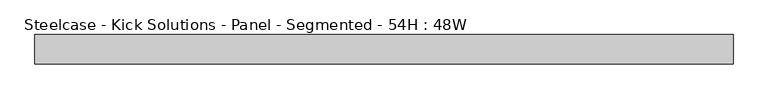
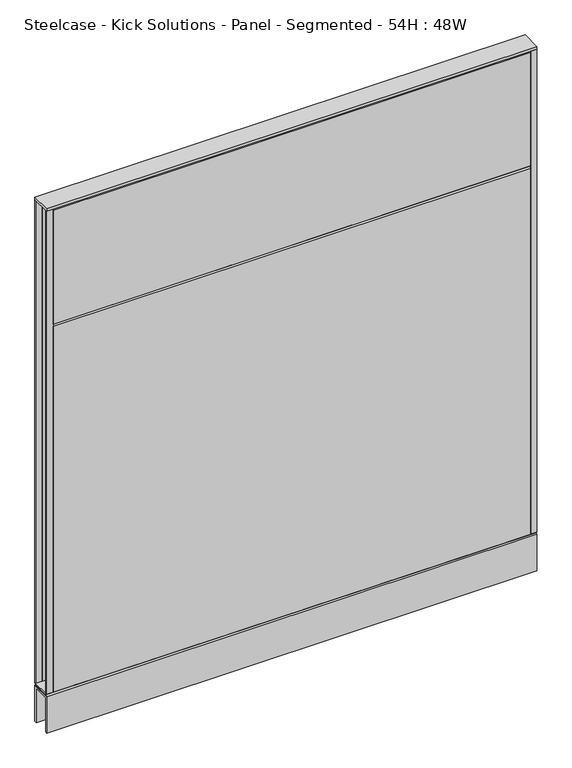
"""IFC4 building model written with IfcOpenShell, lengths in millimetres: furniture geometry, Steelcase - Kick Solutions - Panel - Segmented - 54H : 48W."""

from ifc_helpers import new_model, si_unit, frame, origin, place, context, project, spatial, polyline, outline, extrude, source, transform, mapped, element, save


def steelcase_kick_solutions_panel_segmented_54h_48w_2d25b613(model_context):
    return source(origin(), model_context, "Body", "SweptSolid", [
        extrude(outline(polyline([(1.5e-06, 101.600003), (-3.175, 101.600003), (-3.175, 1371.6), (1.5e-06, 1368.5188448), (1.5e-06, 101.600003)])), frame((15.8749996, 0.0, 0.0), z_axis=(1.0, 0.0, 0.0), x_axis=(0.0, 1.0, 0.0)), (0.0, 0.0, 1.0), 1187.4500008),
        extrude(outline(polyline([(-50.8000015, 1069.8811552), (-50.8000015, 1368.5188448), (-47.625, 1371.6), (-47.625, 1066.8), (-50.8000015, 1069.8811552)])), frame((15.8749996, 0.0, 0.0), z_axis=(1.0, 0.0, 0.0), x_axis=(0.0, 1.0, 0.0)), (0.0, 0.0, 1.0), 1187.4500008),
        extrude(outline(polyline([(-50.8000015, 101.600003), (-50.8000015, 1063.7188448), (-47.625, 1066.8), (-47.625, 101.600003), (-50.8000015, 101.600003)])), frame((15.8749996, 0.0, 0.0), z_axis=(1.0, 0.0, 0.0), x_axis=(0.0, 1.0, 0.0)), (0.0, 0.0, 1.0), 1187.4500008),
        extrude(outline(polyline([(1219.2, -3.1750015), (1203.3250004, -3.1750015), (1203.3250004, 0.0), (1219.2, 0.0), (1219.2, -3.1750015)])), frame((0.0, 0.0, 101.7169049), z_axis=(0.0, 0.0, 1.0), x_axis=(1.0, 0.0, 0.0)), (0.0, 0.0, 1.0), 1269.999997),
        extrude(outline(polyline([(15.8749996, -50.8000015), (0.0, -50.8000015), (0.0, -47.625), (15.8749996, -47.625), (15.8749996, -50.8000015)])), frame((0.0, 0.0, 101.7169049), z_axis=(0.0, 0.0, 1.0), x_axis=(1.0, 0.0, 0.0)), (0.0, 0.0, 1.0), 1269.999997),
        extrude(outline(polyline([(-50.7995075, 101.7169049), (-0.000494, 101.7169049), (-3.0583512, 98.5421458), (-47.7416503, 98.5421458), (-50.7995075, 101.7169049)])), frame((0.0, 0.0, 0.0), z_axis=(1.0, 0.0, 0.0), x_axis=(0.0, 1.0, 0.0)), (0.0, 0.0, 1.0), 1219.2),
        extrude(outline(polyline([(1219.2, 0.0), (1219.2, -50.8000015), (0.0, -50.8000015), (0.0, 0.0), (1219.2, 0.0)])), frame((0.0, 0.0, 1371.7169018), z_axis=(0.0, 0.0, 1.0), x_axis=(1.0, 0.0, 0.0)), (0.0, 0.0, 1.0), 6.35),
        extrude(outline(polyline([(15.8749996, -3.1750015), (0.0, -3.1750015), (0.0, 0.0), (15.8749996, 0.0), (15.8749996, -3.1750015)])), frame((0.0, 0.0, 101.7169049), z_axis=(0.0, 0.0, 1.0), x_axis=(1.0, 0.0, 0.0)), (0.0, 0.0, 1.0), 1269.999997),
        extrude(outline(polyline([(1219.2, -50.8000015), (1203.3250004, -50.8000015), (1203.3250004, -47.625), (1219.2, -47.625), (1219.2, -50.8000015)])), frame((0.0, 0.0, 101.7169049), z_axis=(0.0, 0.0, 1.0), x_axis=(1.0, 0.0, 0.0)), (0.0, 0.0, 1.0), 1269.999997),
        extrude(outline(polyline([(-50.8000015, 95.3668927), (-47.6247484, 98.5421458), (-3.1752531, 98.5421458), (0.0, 95.3668927), (-50.8000015, 95.3668927)])), frame((0.0, 0.0, 0.0), z_axis=(1.0, 0.0, 0.0), x_axis=(0.0, 1.0, 0.0)), (0.0, 0.0, 1.0), 1219.2),
        extrude(outline(polyline([(0.0, 0.0), (-5.08, 0.0), (-5.08, 90.2869018), (-45.7200015, 90.2869018), (-45.7200015, 0.0), (-50.8000015, 0.0), (-50.8000015, 95.3669018), (0.0, 95.3669018), (0.0, 0.0)])), frame((0.0, 0.0, 0.0), z_axis=(1.0, 0.0, 0.0), x_axis=(0.0, 1.0, 0.0)), (0.0, 0.0, 1.0), 1219.2),
    ])


if __name__ == "__main__":
    model = new_model("IFC4")
    model_context = context("Model", 3, world=origin())
    ifc_project = project(units=[si_unit("LENGTHUNIT", "METRE", prefix="MILLI")], contexts=[model_context])
    site = spatial("IfcSite", under=ifc_project)
    building = spatial("IfcBuilding", under=site)
    placement = place(None, origin())
    steelcase_kick_solutions_panel_segmented_54h_48w_shape = steelcase_kick_solutions_panel_segmented_54h_48w_2d25b613(model_context)
    element("IfcFurniture", 1, ObjectType="Steelcase - Kick Solutions - Panel - Segmented - 54H : 48W", at=placement, inside=building, context=model_context, shape_type="MappedRepresentation", body=[
        mapped(steelcase_kick_solutions_panel_segmented_54h_48w_shape, transform((0.0, 0.0, 0.0), x_axis=(1.0, 0.0, 0.0), y_axis=(0.0, 1.0, 0.0), z_axis=(0.0, 0.0, 1.0))),
    ])
    save(model, "model.ifc")
